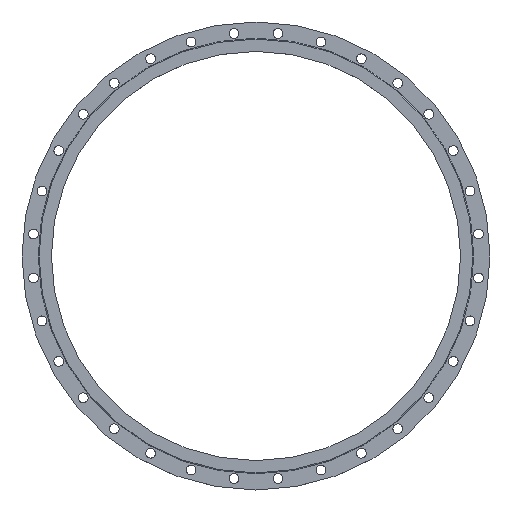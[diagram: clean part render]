
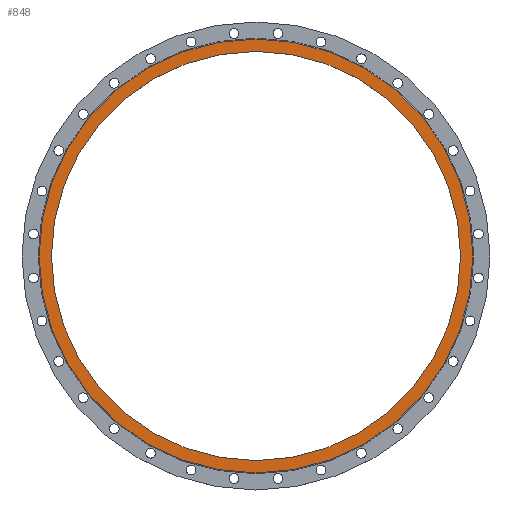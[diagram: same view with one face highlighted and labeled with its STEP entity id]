
A CAD part, top view. The second image highlights one B-rep face of the part: STEP entity #848.
In plain terms, the highlighted planar face has unit normal (0, 0, 1).
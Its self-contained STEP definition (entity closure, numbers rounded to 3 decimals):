
#150=FACE_BOUND('',#295,.T.);
#185=PLANE('',#982);
#223=FACE_OUTER_BOUND('',#294,.T.);
#294=EDGE_LOOP('',(#772,#773));
#295=EDGE_LOOP('',(#774,#775));
#332=CIRCLE('',#873,730.);
#333=CIRCLE('',#874,730.);
#401=CIRCLE('',#976,688.5);
#402=CIRCLE('',#977,688.5);
#408=VERTEX_POINT('',#1253);
#409=VERTEX_POINT('',#1255);
#476=VERTEX_POINT('',#1457);
#477=VERTEX_POINT('',#1458);
#483=EDGE_CURVE('',#409,#408,#332,.T.);
#484=EDGE_CURVE('',#408,#409,#333,.T.);
#584=EDGE_CURVE('',#476,#477,#401,.T.);
#585=EDGE_CURVE('',#477,#476,#402,.T.);
#772=ORIENTED_EDGE('',*,*,#483,.T.);
#773=ORIENTED_EDGE('',*,*,#484,.T.);
#774=ORIENTED_EDGE('',*,*,#584,.T.);
#775=ORIENTED_EDGE('',*,*,#585,.T.);
#848=ADVANCED_FACE('',(#223,#150),#185,.T.);
#873=AXIS2_PLACEMENT_3D('',#1256,#992,#993);
#874=AXIS2_PLACEMENT_3D('',#1257,#994,#995);
#976=AXIS2_PLACEMENT_3D('',#1459,#1230,#1231);
#977=AXIS2_PLACEMENT_3D('',#1460,#1232,#1233);
#982=AXIS2_PLACEMENT_3D('',#1470,#1244,#1245);
#992=DIRECTION('center_axis',(0.,0.,1.));
#993=DIRECTION('ref_axis',(-1.,0.,0.));
#994=DIRECTION('center_axis',(0.,0.,1.));
#995=DIRECTION('ref_axis',(-1.,0.,0.));
#1230=DIRECTION('center_axis',(0.,0.,-1.));
#1231=DIRECTION('ref_axis',(1.,0.,0.));
#1232=DIRECTION('center_axis',(0.,0.,-1.));
#1233=DIRECTION('ref_axis',(1.,0.,0.));
#1244=DIRECTION('center_axis',(0.,0.,1.));
#1245=DIRECTION('ref_axis',(1.,0.,0.));
#1253=CARTESIAN_POINT('',(-730.,0.,34.));
#1255=CARTESIAN_POINT('',(730.,0.,34.));
#1256=CARTESIAN_POINT('Origin',(0.,0.,34.));
#1257=CARTESIAN_POINT('Origin',(0.,0.,34.));
#1457=CARTESIAN_POINT('',(688.5,0.,34.));
#1458=CARTESIAN_POINT('',(-688.5,0.,34.));
#1459=CARTESIAN_POINT('Origin',(0.,0.,34.));
#1460=CARTESIAN_POINT('Origin',(0.,0.,34.));
#1470=CARTESIAN_POINT('Origin',(0.,0.,34.));
